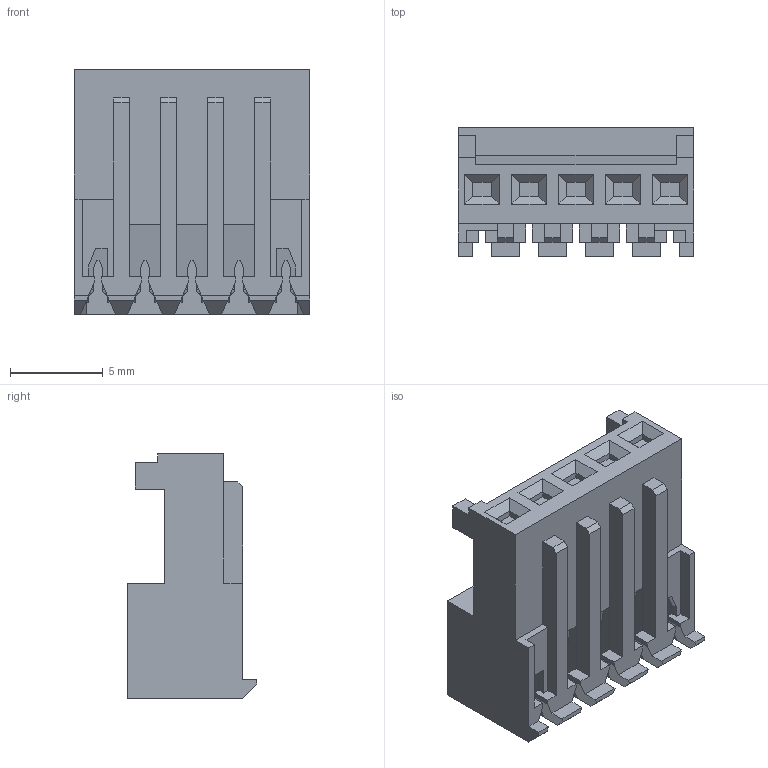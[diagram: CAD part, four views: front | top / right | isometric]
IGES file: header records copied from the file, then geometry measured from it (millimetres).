
Start section: SolidWorks IGES file using analytic representation for surfaces
Global section: file name: C:\Users\kkamath\Desktop\Acessories\33135r1.igs; native system: SolidWorks 2010; preprocessor: SolidWorks 2010; author: kkamath; date: 110711.100201; units: inch
Bounding box: 12.7 x 6.99 x 13.21 mm (x, y, z)
Surface area: 1315.7 mm2 (no closed solid volume)
Topology: 0 solids, 0 shells, 454 faces, 2990 edges, 2990 vertices
Faces by surface type: bspline 414, revolution 40
